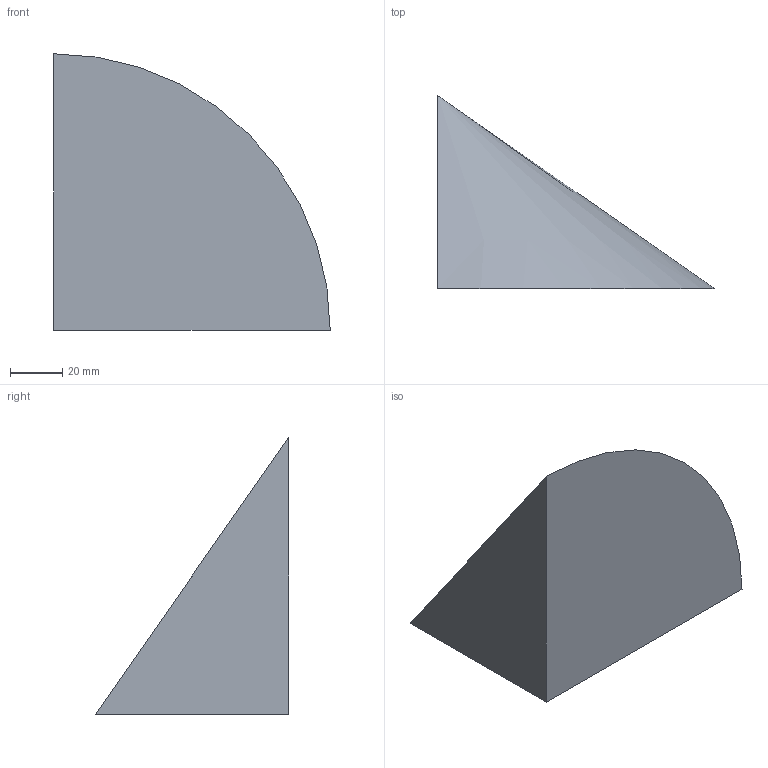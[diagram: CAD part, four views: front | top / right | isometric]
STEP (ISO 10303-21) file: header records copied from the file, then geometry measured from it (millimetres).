
FILE_DESCRIPTION(('CATIA V5 STEP Exchange'),'2;1');
FILE_NAME('C:\_Andres\UNIVERSIDAD\IQS\ASIGNATURAS\DAO\EXF\EXF-16172c\2inicio\Campmany_Monforte_Ej07_v6.stp','2017-03-05T21:18:11+00:00',('none'),('none'),'CATIA Version 5-6 Release 2014 SP1 HF18','CATIA V5 STEP AP203','none');
FILE_SCHEMA(('CONFIG_CONTROL_DESIGN'));
Length unit declared in the file: millimetre
Products named in the file (1): Campmany_Monforte_Ej07_v6
Bounding box: 106 x 74 x 106 mm (x, y, z)
Volume: 217676.8 mm3; surface area: 27431.2 mm2
Topology: 1 solids, 1 shells, 4 faces, 7 edges, 4 vertices
Faces by surface type: plane 3, cone 1
Entity records: 131 total; most frequent: CARTESIAN_POINT 15, DIRECTION 14, ORIENTED_EDGE 12, AXIS2_PLACEMENT_3D 6, EDGE_CURVE 6, VECTOR 5, LINE 5, ADVANCED_FACE 4
